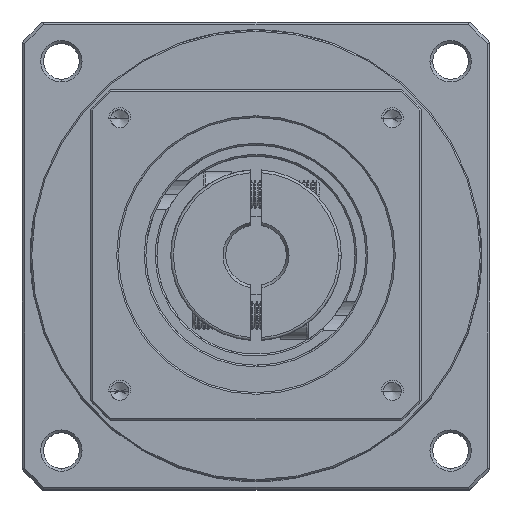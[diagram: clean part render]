
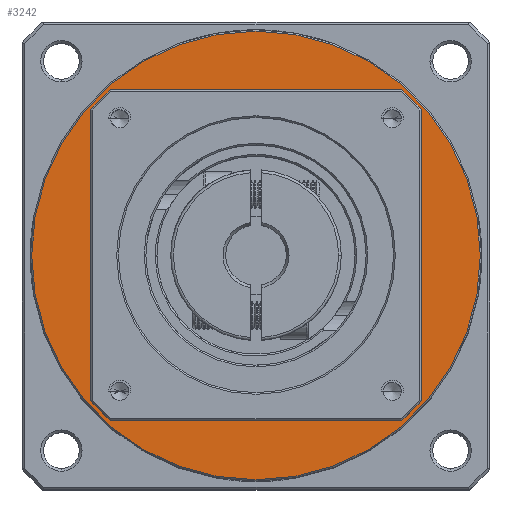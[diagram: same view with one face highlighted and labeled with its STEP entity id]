
A CAD part, top view. The second image highlights one B-rep face of the part: STEP entity #3242.
In plain terms, the highlighted planar face has unit normal (0, 0, 1).
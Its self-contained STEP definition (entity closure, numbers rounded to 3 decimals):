
#1513 = AXIS2_PLACEMENT_3D ( 'NONE', #60421, #7542, #69314 ) ;
#3242 = ADVANCED_FACE ( 'NONE', ( #75185, #7483 ), #29728, .T. ) ;
#4432 = EDGE_LOOP ( 'NONE', ( #18160, #24740 ) ) ;
#5966 = VERTEX_POINT ( 'NONE', #58906 ) ;
#6682 = DIRECTION ( 'NONE',  ( 0., 1., 0. ) ) ;
#7483 = FACE_BOUND ( 'NONE', #106459, .T. ) ;
#7542 = DIRECTION ( 'NONE',  ( 0., 0., -1. ) ) ;
#9466 = DIRECTION ( 'NONE',  ( 0., 0., -1. ) ) ;
#11055 = VERTEX_POINT ( 'NONE', #74510 ) ;
#15066 = CARTESIAN_POINT ( 'NONE',  ( -64.087, -20.655, -26.151 ) ) ;
#18160 = ORIENTED_EDGE ( 'NONE', *, *, #89116, .F. ) ;
#24740 = ORIENTED_EDGE ( 'NONE', *, *, #42250, .F. ) ;
#28442 = DIRECTION ( 'NONE',  ( 0., 0., -1. ) ) ;
#28627 = AXIS2_PLACEMENT_3D ( 'NONE', #81330, #28442, #90224 ) ;
#29728 = PLANE ( 'NONE',  #111327 ) ;
#31251 = EDGE_CURVE ( 'NONE', #5966, #11055, #88517, .T. ) ;
#38077 = CIRCLE ( 'NONE', #80592, 40.75 ) ;
#38201 = CARTESIAN_POINT ( 'NONE',  ( -64.087, 60.845, -26.151 ) ) ;
#42250 = EDGE_CURVE ( 'NONE', #54810, #103907, #38077, .T. ) ;
#54810 = VERTEX_POINT ( 'NONE', #15066 ) ;
#58906 = CARTESIAN_POINT ( 'NONE',  ( -94.087, 20.095, -26.151 ) ) ;
#59601 = DIRECTION ( 'NONE',  ( 0., 0., -1. ) ) ;
#60421 = CARTESIAN_POINT ( 'NONE',  ( -64.087, 20.095, -26.151 ) ) ;
#69314 = DIRECTION ( 'NONE',  ( -1., 0., 0. ) ) ;
#71261 = DIRECTION ( 'NONE',  ( 0., 1., 0. ) ) ;
#74510 = CARTESIAN_POINT ( 'NONE',  ( -34.087, 20.095, -26.151 ) ) ;
#75185 = FACE_OUTER_BOUND ( 'NONE', #4432, .T. ) ;
#77906 = CARTESIAN_POINT ( 'NONE',  ( -64.087, 20.095, -26.151 ) ) ;
#78315 = CIRCLE ( 'NONE', #87443, 40.75 ) ;
#80592 = AXIS2_PLACEMENT_3D ( 'NONE', #77906, #9466, #71261 ) ;
#81330 = CARTESIAN_POINT ( 'NONE',  ( -64.087, 20.095, -26.151 ) ) ;
#82661 = EDGE_CURVE ( 'NONE', #11055, #5966, #109132, .T. ) ;
#85176 = ORIENTED_EDGE ( 'NONE', *, *, #31251, .T. ) ;
#87443 = AXIS2_PLACEMENT_3D ( 'NONE', #112307, #59601, #6682 ) ;
#88517 = CIRCLE ( 'NONE', #28627, 30. ) ;
#89116 = EDGE_CURVE ( 'NONE', #103907, #54810, #78315, .T. ) ;
#90224 = DIRECTION ( 'NONE',  ( -1., 0., 0. ) ) ;
#103554 = DIRECTION ( 'NONE',  ( 1., 0., 0. ) ) ;
#103907 = VERTEX_POINT ( 'NONE', #38201 ) ;
#103947 = DIRECTION ( 'NONE',  ( 0., 0., 1. ) ) ;
#106459 = EDGE_LOOP ( 'NONE', ( #85176, #112333 ) ) ;
#109132 = CIRCLE ( 'NONE', #1513, 30. ) ;
#111327 = AXIS2_PLACEMENT_3D ( 'NONE', #112690, #103947, #103554 ) ;
#112307 = CARTESIAN_POINT ( 'NONE',  ( -64.087, 20.095, -26.151 ) ) ;
#112333 = ORIENTED_EDGE ( 'NONE', *, *, #82661, .T. ) ;
#112690 = CARTESIAN_POINT ( 'NONE',  ( -64.087, 20.095, -26.151 ) ) ;
